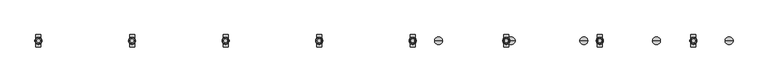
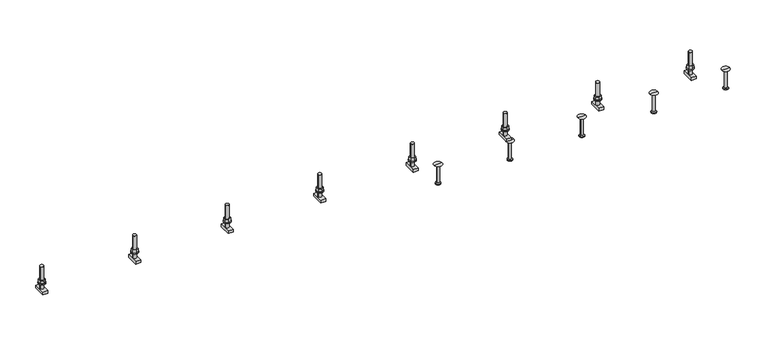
"""IFC4 building model written with IfcOpenShell, lengths in millimetres: fastener geometry, JTA-W JORDAHL® AnchorChannels : JTA-W L=3000 mm."""

from ifc_helpers import new_model, si_unit, point, frame, frame_2d, origin, place, context, project, spatial, polyline, circle_curve, trimmed, segment, composite_curve, outline, extrude, source, transform, mapped, element, save
from ifc_brep_helpers import plane_surface, cylinder_surface, revolved_surface, advanced_brep


def fastener_f8aa0450(model_context):
    return source(origin(), model_context, "Body", "SolidModel", [
        extrude(outline(polyline([(2608.3333333, -10.3923048), (2599.3333333, -5.1961524), (2599.3333333, 5.1961524), (2608.3333333, 10.3923048), (2617.3333333, 5.1961524), (2617.3333333, -5.1961524), (2608.3333333, -10.3923048)]), holes=[composite_curve([segment(trimmed(circle_curve(frame_2d((2608.3333333, 0.0)), 6.0), [point((2602.3333333, 0.0))], [point((2614.3333333, 0.0))], True, "CARTESIAN"), True, "CONTINUOUS"), segment(trimmed(circle_curve(frame_2d((2608.3333333, 0.0)), 6.0), [point((2614.3333333, 0.0))], [point((2602.3333333, 0.0))], True, "CARTESIAN"), True, "CONTINUOUS")], self_intersect=False)]), frame((0.0, 0.0, 17.5), z_axis=(0.0, 0.0, 1.0), x_axis=(1.0, 0.0, 0.0)), (0.0, 0.0, 1.0), 10.8),
        extrude(outline(composite_curve([segment(trimmed(circle_curve(frame_2d((2608.3333333, 0.0)), 12.0), [point((2596.3333333, 0.0))], [point((2620.3333333, 0.0))], False, "CARTESIAN"), True, "CONTINUOUS"), segment(trimmed(circle_curve(frame_2d((2608.3333333, 0.0)), 12.0), [point((2620.3333333, 0.0))], [point((2596.3333333, 0.0))], False, "CARTESIAN"), True, "CONTINUOUS")], self_intersect=False), holes=[composite_curve([segment(trimmed(circle_curve(frame_2d((2608.3333333, 0.0)), 6.5), [point((2601.8333333, 0.0))], [point((2614.8333333, 0.0))], True, "CARTESIAN"), True, "CONTINUOUS"), segment(trimmed(circle_curve(frame_2d((2608.3333333, 0.0)), 6.5), [point((2614.8333333, 0.0))], [point((2601.8333333, 0.0))], True, "CARTESIAN"), True, "CONTINUOUS")], self_intersect=False)]), frame((0.0, 0.0, 15.0), z_axis=(0.0, 0.0, 1.0), x_axis=(1.0, 0.0, 0.0)), (0.0, 0.0, 1.0), 2.5),
        extrude(outline(polyline([(2291.6666667, -10.3923048), (2282.6666667, -5.1961524), (2282.6666667, 5.1961524), (2291.6666667, 10.3923048), (2300.6666667, 5.1961524), (2300.6666667, -5.1961524), (2291.6666667, -10.3923048)]), holes=[composite_curve([segment(trimmed(circle_curve(frame_2d((2291.6666667, 0.0)), 6.0), [point((2285.6666667, 0.0))], [point((2297.6666667, 0.0))], True, "CARTESIAN"), True, "CONTINUOUS"), segment(trimmed(circle_curve(frame_2d((2291.6666667, 0.0)), 6.0), [point((2297.6666667, 0.0))], [point((2285.6666667, 0.0))], True, "CARTESIAN"), True, "CONTINUOUS")], self_intersect=False)]), frame((0.0, 0.0, 17.5), z_axis=(0.0, 0.0, 1.0), x_axis=(1.0, 0.0, 0.0)), (0.0, 0.0, 1.0), 10.8),
        extrude(outline(composite_curve([segment(trimmed(circle_curve(frame_2d((2291.6666667, 0.0)), 12.0), [point((2279.6666667, 0.0))], [point((2303.6666667, 0.0))], False, "CARTESIAN"), True, "CONTINUOUS"), segment(trimmed(circle_curve(frame_2d((2291.6666667, 0.0)), 12.0), [point((2303.6666667, 0.0))], [point((2279.6666667, 0.0))], False, "CARTESIAN"), True, "CONTINUOUS")], self_intersect=False), holes=[composite_curve([segment(trimmed(circle_curve(frame_2d((2291.6666667, 0.0)), 6.5), [point((2285.1666667, 0.0))], [point((2298.1666667, 0.0))], True, "CARTESIAN"), True, "CONTINUOUS"), segment(trimmed(circle_curve(frame_2d((2291.6666667, 0.0)), 6.5), [point((2298.1666667, 0.0))], [point((2285.1666667, 0.0))], True, "CARTESIAN"), True, "CONTINUOUS")], self_intersect=False)]), frame((0.0, 0.0, 15.0), z_axis=(0.0, 0.0, 1.0), x_axis=(1.0, 0.0, 0.0)), (0.0, 0.0, 1.0), 2.5),
        extrude(outline(polyline([(1975.0, -10.3923048), (1966.0, -5.1961524), (1966.0, 5.1961524), (1975.0, 10.3923048), (1984.0, 5.1961524), (1984.0, -5.1961524), (1975.0, -10.3923048)]), holes=[composite_curve([segment(trimmed(circle_curve(frame_2d((1975.0, 0.0)), 6.0), [point((1969.0, 0.0))], [point((1981.0, 0.0))], True, "CARTESIAN"), True, "CONTINUOUS"), segment(trimmed(circle_curve(frame_2d((1975.0, 0.0)), 6.0), [point((1981.0, 0.0))], [point((1969.0, 0.0))], True, "CARTESIAN"), True, "CONTINUOUS")], self_intersect=False)]), frame((0.0, 0.0, 17.5), z_axis=(0.0, 0.0, 1.0), x_axis=(1.0, 0.0, 0.0)), (0.0, 0.0, 1.0), 10.8),
        extrude(outline(composite_curve([segment(trimmed(circle_curve(frame_2d((1975.0, 0.0)), 12.0), [point((1963.0, 0.0))], [point((1987.0, 0.0))], False, "CARTESIAN"), True, "CONTINUOUS"), segment(trimmed(circle_curve(frame_2d((1975.0, 0.0)), 12.0), [point((1987.0, 0.0))], [point((1963.0, 0.0))], False, "CARTESIAN"), True, "CONTINUOUS")], self_intersect=False), holes=[composite_curve([segment(trimmed(circle_curve(frame_2d((1975.0, 0.0)), 6.5), [point((1968.5, 0.0))], [point((1981.5, 0.0))], True, "CARTESIAN"), True, "CONTINUOUS"), segment(trimmed(circle_curve(frame_2d((1975.0, 0.0)), 6.5), [point((1981.5, 0.0))], [point((1968.5, 0.0))], True, "CARTESIAN"), True, "CONTINUOUS")], self_intersect=False)]), frame((0.0, 0.0, 15.0), z_axis=(0.0, 0.0, 1.0), x_axis=(1.0, 0.0, 0.0)), (0.0, 0.0, 1.0), 2.5),
        extrude(outline(polyline([(1658.3333333, -10.3923048), (1649.3333333, -5.1961524), (1649.3333333, 5.1961524), (1658.3333333, 10.3923048), (1667.3333333, 5.1961524), (1667.3333333, -5.1961524), (1658.3333333, -10.3923048)]), holes=[composite_curve([segment(trimmed(circle_curve(frame_2d((1658.3333333, 0.0)), 6.0), [point((1652.3333333, 0.0))], [point((1664.3333333, 0.0))], True, "CARTESIAN"), True, "CONTINUOUS"), segment(trimmed(circle_curve(frame_2d((1658.3333333, 0.0)), 6.0), [point((1664.3333333, 0.0))], [point((1652.3333333, 0.0))], True, "CARTESIAN"), True, "CONTINUOUS")], self_intersect=False)]), frame((0.0, 0.0, 17.5), z_axis=(0.0, 0.0, 1.0), x_axis=(1.0, 0.0, 0.0)), (0.0, 0.0, 1.0), 10.8),
        extrude(outline(composite_curve([segment(trimmed(circle_curve(frame_2d((1658.3333333, 0.0)), 12.0), [point((1646.3333333, 0.0))], [point((1670.3333333, 0.0))], False, "CARTESIAN"), True, "CONTINUOUS"), segment(trimmed(circle_curve(frame_2d((1658.3333333, 0.0)), 12.0), [point((1670.3333333, 0.0))], [point((1646.3333333, 0.0))], False, "CARTESIAN"), True, "CONTINUOUS")], self_intersect=False), holes=[composite_curve([segment(trimmed(circle_curve(frame_2d((1658.3333333, 0.0)), 6.5), [point((1651.8333333, 0.0))], [point((1664.8333333, 0.0))], True, "CARTESIAN"), True, "CONTINUOUS"), segment(trimmed(circle_curve(frame_2d((1658.3333333, 0.0)), 6.5), [point((1664.8333333, 0.0))], [point((1651.8333333, 0.0))], True, "CARTESIAN"), True, "CONTINUOUS")], self_intersect=False)]), frame((0.0, 0.0, 15.0), z_axis=(0.0, 0.0, 1.0), x_axis=(1.0, 0.0, 0.0)), (0.0, 0.0, 1.0), 2.5),
        extrude(outline(polyline([(1341.6666667, -10.3923048), (1332.6666667, -5.1961524), (1332.6666667, 5.1961524), (1341.6666667, 10.3923048), (1350.6666667, 5.1961524), (1350.6666667, -5.1961524), (1341.6666667, -10.3923048)]), holes=[composite_curve([segment(trimmed(circle_curve(frame_2d((1341.6666667, 0.0)), 6.0), [point((1335.6666667, 0.0))], [point((1347.6666667, 0.0))], True, "CARTESIAN"), True, "CONTINUOUS"), segment(trimmed(circle_curve(frame_2d((1341.6666667, 0.0)), 6.0), [point((1347.6666667, 0.0))], [point((1335.6666667, 0.0))], True, "CARTESIAN"), True, "CONTINUOUS")], self_intersect=False)]), frame((0.0, 0.0, 17.5), z_axis=(0.0, 0.0, 1.0), x_axis=(1.0, 0.0, 0.0)), (0.0, 0.0, 1.0), 10.8),
        extrude(outline(composite_curve([segment(trimmed(circle_curve(frame_2d((1341.6666667, 0.0)), 12.0), [point((1329.6666667, 0.0))], [point((1353.6666667, 0.0))], False, "CARTESIAN"), True, "CONTINUOUS"), segment(trimmed(circle_curve(frame_2d((1341.6666667, 0.0)), 12.0), [point((1353.6666667, 0.0))], [point((1329.6666667, 0.0))], False, "CARTESIAN"), True, "CONTINUOUS")], self_intersect=False), holes=[composite_curve([segment(trimmed(circle_curve(frame_2d((1341.6666667, 0.0)), 6.5), [point((1335.1666667, 0.0))], [point((1348.1666667, 0.0))], True, "CARTESIAN"), True, "CONTINUOUS"), segment(trimmed(circle_curve(frame_2d((1341.6666667, 0.0)), 6.5), [point((1348.1666667, 0.0))], [point((1335.1666667, 0.0))], True, "CARTESIAN"), True, "CONTINUOUS")], self_intersect=False)]), frame((0.0, 0.0, 15.0), z_axis=(0.0, 0.0, 1.0), x_axis=(1.0, 0.0, 0.0)), (0.0, 0.0, 1.0), 2.5),
        extrude(outline(polyline([(1025.0, -10.3923048), (1016.0, -5.1961524), (1016.0, 5.1961524), (1025.0, 10.3923048), (1034.0, 5.1961524), (1034.0, -5.1961524), (1025.0, -10.3923048)]), holes=[composite_curve([segment(trimmed(circle_curve(frame_2d((1025.0, 0.0)), 6.0), [point((1019.0, 0.0))], [point((1031.0, 0.0))], True, "CARTESIAN"), True, "CONTINUOUS"), segment(trimmed(circle_curve(frame_2d((1025.0, 0.0)), 6.0), [point((1031.0, 0.0))], [point((1019.0, 0.0))], True, "CARTESIAN"), True, "CONTINUOUS")], self_intersect=False)]), frame((0.0, 0.0, 17.5), z_axis=(0.0, 0.0, 1.0), x_axis=(1.0, 0.0, 0.0)), (0.0, 0.0, 1.0), 10.8),
        extrude(outline(composite_curve([segment(trimmed(circle_curve(frame_2d((1025.0, 0.0)), 12.0), [point((1013.0, 0.0))], [point((1037.0, 0.0))], False, "CARTESIAN"), True, "CONTINUOUS"), segment(trimmed(circle_curve(frame_2d((1025.0, 0.0)), 12.0), [point((1037.0, 0.0))], [point((1013.0, 0.0))], False, "CARTESIAN"), True, "CONTINUOUS")], self_intersect=False), holes=[composite_curve([segment(trimmed(circle_curve(frame_2d((1025.0, 0.0)), 6.5), [point((1018.5, 0.0))], [point((1031.5, 0.0))], True, "CARTESIAN"), True, "CONTINUOUS"), segment(trimmed(circle_curve(frame_2d((1025.0, 0.0)), 6.5), [point((1031.5, 0.0))], [point((1018.5, 0.0))], True, "CARTESIAN"), True, "CONTINUOUS")], self_intersect=False)]), frame((0.0, 0.0, 15.0), z_axis=(0.0, 0.0, 1.0), x_axis=(1.0, 0.0, 0.0)), (0.0, 0.0, 1.0), 2.5),
        extrude(outline(polyline([(708.3333333, -10.3923048), (699.3333333, -5.1961524), (699.3333333, 5.1961524), (708.3333333, 10.3923048), (717.3333333, 5.1961524), (717.3333333, -5.1961524), (708.3333333, -10.3923048)]), holes=[composite_curve([segment(trimmed(circle_curve(frame_2d((708.3333333, 0.0)), 6.0), [point((702.3333333, 0.0))], [point((714.3333333, 0.0))], True, "CARTESIAN"), True, "CONTINUOUS"), segment(trimmed(circle_curve(frame_2d((708.3333333, 0.0)), 6.0), [point((714.3333333, 0.0))], [point((702.3333333, 0.0))], True, "CARTESIAN"), True, "CONTINUOUS")], self_intersect=False)]), frame((0.0, 0.0, 17.5), z_axis=(0.0, 0.0, 1.0), x_axis=(1.0, 0.0, 0.0)), (0.0, 0.0, 1.0), 10.8),
        extrude(outline(composite_curve([segment(trimmed(circle_curve(frame_2d((708.3333333, 0.0)), 12.0), [point((696.3333333, 0.0))], [point((720.3333333, 0.0))], False, "CARTESIAN"), True, "CONTINUOUS"), segment(trimmed(circle_curve(frame_2d((708.3333333, 0.0)), 12.0), [point((720.3333333, 0.0))], [point((696.3333333, 0.0))], False, "CARTESIAN"), True, "CONTINUOUS")], self_intersect=False), holes=[composite_curve([segment(trimmed(circle_curve(frame_2d((708.3333333, 0.0)), 6.5), [point((701.8333333, 0.0))], [point((714.8333333, 0.0))], True, "CARTESIAN"), True, "CONTINUOUS"), segment(trimmed(circle_curve(frame_2d((708.3333333, 0.0)), 6.5), [point((714.8333333, 0.0))], [point((701.8333333, 0.0))], True, "CARTESIAN"), True, "CONTINUOUS")], self_intersect=False)]), frame((0.0, 0.0, 15.0), z_axis=(0.0, 0.0, 1.0), x_axis=(1.0, 0.0, 0.0)), (0.0, 0.0, 1.0), 2.5),
        extrude(outline(polyline([(391.6666667, -10.3923048), (382.6666667, -5.1961524), (382.6666667, 5.1961524), (391.6666667, 10.3923048), (400.6666667, 5.1961524), (400.6666667, -5.1961524), (391.6666667, -10.3923048)]), holes=[composite_curve([segment(trimmed(circle_curve(frame_2d((391.6666667, 0.0)), 6.0), [point((385.6666667, 0.0))], [point((397.6666667, 0.0))], True, "CARTESIAN"), True, "CONTINUOUS"), segment(trimmed(circle_curve(frame_2d((391.6666667, 0.0)), 6.0), [point((397.6666667, 0.0))], [point((385.6666667, 0.0))], True, "CARTESIAN"), True, "CONTINUOUS")], self_intersect=False)]), frame((0.0, 0.0, 17.5), z_axis=(0.0, 0.0, 1.0), x_axis=(1.0, 0.0, 0.0)), (0.0, 0.0, 1.0), 10.8),
        extrude(outline(composite_curve([segment(trimmed(circle_curve(frame_2d((391.6666667, 0.0)), 12.0), [point((379.6666667, 0.0))], [point((403.6666667, 0.0))], False, "CARTESIAN"), True, "CONTINUOUS"), segment(trimmed(circle_curve(frame_2d((391.6666667, 0.0)), 12.0), [point((403.6666667, 0.0))], [point((379.6666667, 0.0))], False, "CARTESIAN"), True, "CONTINUOUS")], self_intersect=False), holes=[composite_curve([segment(trimmed(circle_curve(frame_2d((391.6666667, 0.0)), 6.5), [point((385.1666667, 0.0))], [point((398.1666667, 0.0))], True, "CARTESIAN"), True, "CONTINUOUS"), segment(trimmed(circle_curve(frame_2d((391.6666667, 0.0)), 6.5), [point((398.1666667, 0.0))], [point((385.1666667, 0.0))], True, "CARTESIAN"), True, "CONTINUOUS")], self_intersect=False)]), frame((0.0, 0.0, 15.0), z_axis=(0.0, 0.0, 1.0), x_axis=(1.0, 0.0, 0.0)), (0.0, 0.0, 1.0), 2.5),
        advanced_brep(
        [(2616.8333333, -20.7, -4.0), (2616.8333333, -20.7, -14.0), (2616.8333333, 20.7, -14.0), (2616.8333333, 20.7, -4.0), (2599.8333333, -20.7, -4.0), (2599.8333333, 20.7, -4.0), (2599.8333333, 20.7, -14.0), (2599.8333333, -20.7, -14.0), (2614.3333333, 0.0, -4.0), (2602.3333333, 0.0, -4.0), (2602.3333333, 0.0, 76.0), (2614.3333333, 0.0, 76.0)],
        [
            (0, 1),
            (1, 2),
            (2, 3),
            (3, 0),
            (4, 5),
            (5, 6),
            (6, 7),
            (7, 4),
            (3, 5),
            (4, 0),
            (8, 9, circle_curve(frame((2608.3333333, 0.0, -4.0), z_axis=(0.0, 0.0, -1.0), x_axis=(1.0, 0.0, 0.0)), 6.0)),
            (9, 8, circle_curve(frame((2608.3333333, 0.0, -4.0), z_axis=(0.0, 0.0, -1.0), x_axis=(1.0, 0.0, 0.0)), 6.0)),
            (2, 6),
            (1, 7),
            (10, 11, circle_curve(frame((2608.3333333, 0.0, 76.0), z_axis=(0.0, 0.0, 1.0), x_axis=(1.0, 0.0, 0.0)), 6.0)),
            (11, 10, circle_curve(frame((2608.3333333, 0.0, 76.0), z_axis=(0.0, 0.0, 1.0), x_axis=(1.0, 0.0, 0.0)), 6.0)),
            (11, 8),
            (9, 10),
        ],
        [
            plane_surface(frame((2616.8333333, 20.7, -4.0), z_axis=(1.0, 0.0, 0.0), x_axis=(0.0, 1.0, 0.0))),
            plane_surface(frame((2599.8333333, 20.7, -4.0), z_axis=(-1.0, 0.0, 0.0), x_axis=(0.0, -1.0, 0.0))),
            plane_surface(frame((2616.8333333, -20.7, -4.0), z_axis=(0.0, 0.0, 1.0), x_axis=(-1.0, 0.0, 0.0))),
            plane_surface(frame((2616.8333333, 20.7, -4.0), z_axis=(0.0, 1.0, 0.0), x_axis=(-1.0, 0.0, 0.0))),
            plane_surface(frame((2616.8333333, 20.7, -14.0), z_axis=(0.0, 0.0, -1.0), x_axis=(-1.0, 0.0, 0.0))),
            plane_surface(frame((2616.8333333, -20.7, -14.0), z_axis=(0.0, -1.0, 0.0), x_axis=(-1.0, 0.0, 0.0))),
            plane_surface(frame((2614.3333333, 0.0, 76.0), z_axis=(0.0, 0.0, 1.0), x_axis=(0.0, -1.0, 0.0))),
            cylinder_surface(frame((2608.3333333, 0.0, -4.0), z_axis=(0.0, 0.0, 1.0), x_axis=(1.0, 0.0, 0.0)), 6.0),
        ],
        [
            (0, [[1, 2, 3, 4]]),
            (1, [[5, 6, 7, 8]]),
            (2, [[9, -5, 10, -4], [11, 12]]),
            (3, [[13, -6, -9, -3]]),
            (4, [[14, -7, -13, -2]]),
            (5, [[-10, -8, -14, -1]]),
            (6, [[15, 16]]),
            (7, [[17, -12, 18, -16]]),
            (7, [[-18, -11, -17, -15]]),
        ],
    ),
        advanced_brep(
        [(2300.1666667, -20.7, -4.0), (2300.1666667, -20.7, -14.0), (2300.1666667, 20.7, -14.0), (2300.1666667, 20.7, -4.0), (2283.1666667, -20.7, -4.0), (2283.1666667, 20.7, -4.0), (2283.1666667, 20.7, -14.0), (2283.1666667, -20.7, -14.0), (2297.6666667, 0.0, -4.0), (2285.6666667, 0.0, -4.0), (2285.6666667, 0.0, 76.0), (2297.6666667, 0.0, 76.0)],
        [
            (0, 1),
            (1, 2),
            (2, 3),
            (3, 0),
            (4, 5),
            (5, 6),
            (6, 7),
            (7, 4),
            (3, 5),
            (4, 0),
            (8, 9, circle_curve(frame((2291.6666667, 0.0, -4.0), z_axis=(0.0, 0.0, -1.0), x_axis=(1.0, 0.0, 0.0)), 6.0)),
            (9, 8, circle_curve(frame((2291.6666667, 0.0, -4.0), z_axis=(0.0, 0.0, -1.0), x_axis=(1.0, 0.0, 0.0)), 6.0)),
            (2, 6),
            (1, 7),
            (10, 11, circle_curve(frame((2291.6666667, 0.0, 76.0), z_axis=(0.0, 0.0, 1.0), x_axis=(1.0, 0.0, 0.0)), 6.0)),
            (11, 10, circle_curve(frame((2291.6666667, 0.0, 76.0), z_axis=(0.0, 0.0, 1.0), x_axis=(1.0, 0.0, 0.0)), 6.0)),
            (11, 8),
            (9, 10),
        ],
        [
            plane_surface(frame((2300.1666667, 20.7, -4.0), z_axis=(1.0, 0.0, 0.0), x_axis=(0.0, 1.0, 0.0))),
            plane_surface(frame((2283.1666667, 20.7, -4.0), z_axis=(-1.0, 0.0, 0.0), x_axis=(0.0, -1.0, 0.0))),
            plane_surface(frame((2300.1666667, -20.7, -4.0), z_axis=(0.0, 0.0, 1.0), x_axis=(-1.0, 0.0, 0.0))),
            plane_surface(frame((2300.1666667, 20.7, -4.0), z_axis=(0.0, 1.0, 0.0), x_axis=(-1.0, 0.0, 0.0))),
            plane_surface(frame((2300.1666667, 20.7, -14.0), z_axis=(0.0, 0.0, -1.0), x_axis=(-1.0, 0.0, 0.0))),
            plane_surface(frame((2300.1666667, -20.7, -14.0), z_axis=(0.0, -1.0, 0.0), x_axis=(-1.0, 0.0, 0.0))),
            plane_surface(frame((2297.6666667, 0.0, 76.0), z_axis=(0.0, 0.0, 1.0), x_axis=(0.0, -1.0, 0.0))),
            cylinder_surface(frame((2291.6666667, 0.0, -4.0), z_axis=(0.0, 0.0, 1.0), x_axis=(1.0, 0.0, 0.0)), 6.0),
        ],
        [
            (0, [[1, 2, 3, 4]]),
            (1, [[5, 6, 7, 8]]),
            (2, [[9, -5, 10, -4], [11, 12]]),
            (3, [[13, -6, -9, -3]]),
            (4, [[14, -7, -13, -2]]),
            (5, [[-10, -8, -14, -1]]),
            (6, [[15, 16]]),
            (7, [[17, -12, 18, -16]]),
            (7, [[-18, -11, -17, -15]]),
        ],
    ),
        advanced_brep(
        [(1983.5, -20.7, -4.0), (1983.5, -20.7, -14.0), (1983.5, 20.7, -14.0), (1983.5, 20.7, -4.0), (1966.5, -20.7, -4.0), (1966.5, 20.7, -4.0), (1966.5, 20.7, -14.0), (1966.5, -20.7, -14.0), (1981.0, 0.0, -4.0), (1969.0, 0.0, -4.0), (1969.0, 0.0, 76.0), (1981.0, 0.0, 76.0)],
        [
            (0, 1),
            (1, 2),
            (2, 3),
            (3, 0),
            (4, 5),
            (5, 6),
            (6, 7),
            (7, 4),
            (3, 5),
            (4, 0),
            (8, 9, circle_curve(frame((1975.0, 0.0, -4.0), z_axis=(0.0, 0.0, -1.0), x_axis=(1.0, 0.0, 0.0)), 6.0)),
            (9, 8, circle_curve(frame((1975.0, 0.0, -4.0), z_axis=(0.0, 0.0, -1.0), x_axis=(1.0, 0.0, 0.0)), 6.0)),
            (2, 6),
            (1, 7),
            (10, 11, circle_curve(frame((1975.0, 0.0, 76.0), z_axis=(0.0, 0.0, 1.0), x_axis=(1.0, 0.0, 0.0)), 6.0)),
            (11, 10, circle_curve(frame((1975.0, 0.0, 76.0), z_axis=(0.0, 0.0, 1.0), x_axis=(1.0, 0.0, 0.0)), 6.0)),
            (11, 8),
            (9, 10),
        ],
        [
            plane_surface(frame((1983.5, 20.7, -4.0), z_axis=(1.0, 0.0, 0.0), x_axis=(0.0, 1.0, 0.0))),
            plane_surface(frame((1966.5, 20.7, -4.0), z_axis=(-1.0, 0.0, 0.0), x_axis=(0.0, -1.0, 0.0))),
            plane_surface(frame((1983.5, -20.7, -4.0), z_axis=(0.0, 0.0, 1.0), x_axis=(-1.0, 0.0, 0.0))),
            plane_surface(frame((1983.5, 20.7, -4.0), z_axis=(0.0, 1.0, 0.0), x_axis=(-1.0, 0.0, 0.0))),
            plane_surface(frame((1983.5, 20.7, -14.0), z_axis=(0.0, 0.0, -1.0), x_axis=(-1.0, 0.0, 0.0))),
            plane_surface(frame((1983.5, -20.7, -14.0), z_axis=(0.0, -1.0, 0.0), x_axis=(-1.0, 0.0, 0.0))),
            plane_surface(frame((1981.0, 0.0, 76.0), z_axis=(0.0, 0.0, 1.0), x_axis=(0.0, -1.0, 0.0))),
            cylinder_surface(frame((1975.0, 0.0, -4.0), z_axis=(0.0, 0.0, 1.0), x_axis=(1.0, 0.0, 0.0)), 6.0),
        ],
        [
            (0, [[1, 2, 3, 4]]),
            (1, [[5, 6, 7, 8]]),
            (2, [[9, -5, 10, -4], [11, 12]]),
            (3, [[13, -6, -9, -3]]),
            (4, [[14, -7, -13, -2]]),
            (5, [[-10, -8, -14, -1]]),
            (6, [[15, 16]]),
            (7, [[17, -12, 18, -16]]),
            (7, [[-18, -11, -17, -15]]),
        ],
    ),
        advanced_brep(
        [(1666.8333333, -20.7, -4.0), (1666.8333333, -20.7, -14.0), (1666.8333333, 20.7, -14.0), (1666.8333333, 20.7, -4.0), (1649.8333333, -20.7, -4.0), (1649.8333333, 20.7, -4.0), (1649.8333333, 20.7, -14.0), (1649.8333333, -20.7, -14.0), (1664.3333333, 0.0, -4.0), (1652.3333333, 0.0, -4.0), (1652.3333333, 0.0, 76.0), (1664.3333333, 0.0, 76.0)],
        [
            (0, 1),
            (1, 2),
            (2, 3),
            (3, 0),
            (4, 5),
            (5, 6),
            (6, 7),
            (7, 4),
            (3, 5),
            (4, 0),
            (8, 9, circle_curve(frame((1658.3333333, 0.0, -4.0), z_axis=(0.0, 0.0, -1.0), x_axis=(1.0, 0.0, 0.0)), 6.0)),
            (9, 8, circle_curve(frame((1658.3333333, 0.0, -4.0), z_axis=(0.0, 0.0, -1.0), x_axis=(1.0, 0.0, 0.0)), 6.0)),
            (2, 6),
            (1, 7),
            (10, 11, circle_curve(frame((1658.3333333, 0.0, 76.0), z_axis=(0.0, 0.0, 1.0), x_axis=(1.0, 0.0, 0.0)), 6.0)),
            (11, 10, circle_curve(frame((1658.3333333, 0.0, 76.0), z_axis=(0.0, 0.0, 1.0), x_axis=(1.0, 0.0, 0.0)), 6.0)),
            (11, 8),
            (9, 10),
        ],
        [
            plane_surface(frame((1666.8333333, 20.7, -4.0), z_axis=(1.0, 0.0, 0.0), x_axis=(0.0, 1.0, 0.0))),
            plane_surface(frame((1649.8333333, 20.7, -4.0), z_axis=(-1.0, 0.0, 0.0), x_axis=(0.0, -1.0, 0.0))),
            plane_surface(frame((1666.8333333, -20.7, -4.0), z_axis=(0.0, 0.0, 1.0), x_axis=(-1.0, 0.0, 0.0))),
            plane_surface(frame((1666.8333333, 20.7, -4.0), z_axis=(0.0, 1.0, 0.0), x_axis=(-1.0, 0.0, 0.0))),
            plane_surface(frame((1666.8333333, 20.7, -14.0), z_axis=(0.0, 0.0, -1.0), x_axis=(-1.0, 0.0, 0.0))),
            plane_surface(frame((1666.8333333, -20.7, -14.0), z_axis=(0.0, -1.0, 0.0), x_axis=(-1.0, 0.0, 0.0))),
            plane_surface(frame((1664.3333333, 0.0, 76.0), z_axis=(0.0, 0.0, 1.0), x_axis=(0.0, -1.0, 0.0))),
            cylinder_surface(frame((1658.3333333, 0.0, -4.0), z_axis=(0.0, 0.0, 1.0), x_axis=(1.0, 0.0, 0.0)), 6.0),
        ],
        [
            (0, [[1, 2, 3, 4]]),
            (1, [[5, 6, 7, 8]]),
            (2, [[9, -5, 10, -4], [11, 12]]),
            (3, [[13, -6, -9, -3]]),
            (4, [[14, -7, -13, -2]]),
            (5, [[-10, -8, -14, -1]]),
            (6, [[15, 16]]),
            (7, [[17, -12, 18, -16]]),
            (7, [[-18, -11, -17, -15]]),
        ],
    ),
        advanced_brep(
        [(1350.1666667, -20.7, -4.0), (1350.1666667, -20.7, -14.0), (1350.1666667, 20.7, -14.0), (1350.1666667, 20.7, -4.0), (1333.1666667, -20.7, -4.0), (1333.1666667, 20.7, -4.0), (1333.1666667, 20.7, -14.0), (1333.1666667, -20.7, -14.0), (1347.6666667, 0.0, -4.0), (1335.6666667, 0.0, -4.0), (1335.6666667, 0.0, 76.0), (1347.6666667, 0.0, 76.0)],
        [
            (0, 1),
            (1, 2),
            (2, 3),
            (3, 0),
            (4, 5),
            (5, 6),
            (6, 7),
            (7, 4),
            (3, 5),
            (4, 0),
            (8, 9, circle_curve(frame((1341.6666667, 0.0, -4.0), z_axis=(0.0, 0.0, -1.0), x_axis=(1.0, 0.0, 0.0)), 6.0)),
            (9, 8, circle_curve(frame((1341.6666667, 0.0, -4.0), z_axis=(0.0, 0.0, -1.0), x_axis=(1.0, 0.0, 0.0)), 6.0)),
            (2, 6),
            (1, 7),
            (10, 11, circle_curve(frame((1341.6666667, 0.0, 76.0), z_axis=(0.0, 0.0, 1.0), x_axis=(1.0, 0.0, 0.0)), 6.0)),
            (11, 10, circle_curve(frame((1341.6666667, 0.0, 76.0), z_axis=(0.0, 0.0, 1.0), x_axis=(1.0, 0.0, 0.0)), 6.0)),
            (11, 8),
            (9, 10),
        ],
        [
            plane_surface(frame((1350.1666667, 20.7, -4.0), z_axis=(1.0, 0.0, 0.0), x_axis=(0.0, 1.0, 0.0))),
            plane_surface(frame((1333.1666667, 20.7, -4.0), z_axis=(-1.0, 0.0, 0.0), x_axis=(0.0, -1.0, 0.0))),
            plane_surface(frame((1350.1666667, -20.7, -4.0), z_axis=(0.0, 0.0, 1.0), x_axis=(-1.0, 0.0, 0.0))),
            plane_surface(frame((1350.1666667, 20.7, -4.0), z_axis=(0.0, 1.0, 0.0), x_axis=(-1.0, 0.0, 0.0))),
            plane_surface(frame((1350.1666667, 20.7, -14.0), z_axis=(0.0, 0.0, -1.0), x_axis=(-1.0, 0.0, 0.0))),
            plane_surface(frame((1350.1666667, -20.7, -14.0), z_axis=(0.0, -1.0, 0.0), x_axis=(-1.0, 0.0, 0.0))),
            plane_surface(frame((1347.6666667, 0.0, 76.0), z_axis=(0.0, 0.0, 1.0), x_axis=(0.0, -1.0, 0.0))),
            cylinder_surface(frame((1341.6666667, 0.0, -4.0), z_axis=(0.0, 0.0, 1.0), x_axis=(1.0, 0.0, 0.0)), 6.0),
        ],
        [
            (0, [[1, 2, 3, 4]]),
            (1, [[5, 6, 7, 8]]),
            (2, [[9, -5, 10, -4], [11, 12]]),
            (3, [[13, -6, -9, -3]]),
            (4, [[14, -7, -13, -2]]),
            (5, [[-10, -8, -14, -1]]),
            (6, [[15, 16]]),
            (7, [[17, -12, 18, -16]]),
            (7, [[-18, -11, -17, -15]]),
        ],
    ),
        advanced_brep(
        [(1033.5, -20.7, -4.0), (1033.5, -20.7, -14.0), (1033.5, 20.7, -14.0), (1033.5, 20.7, -4.0), (1016.5, -20.7, -4.0), (1016.5, 20.7, -4.0), (1016.5, 20.7, -14.0), (1016.5, -20.7, -14.0), (1031.0, 0.0, -4.0), (1019.0, 0.0, -4.0), (1019.0, 0.0, 76.0), (1031.0, 0.0, 76.0)],
        [
            (0, 1),
            (1, 2),
            (2, 3),
            (3, 0),
            (4, 5),
            (5, 6),
            (6, 7),
            (7, 4),
            (3, 5),
            (4, 0),
            (8, 9, circle_curve(frame((1025.0, 0.0, -4.0), z_axis=(0.0, 0.0, -1.0), x_axis=(1.0, 0.0, 0.0)), 6.0)),
            (9, 8, circle_curve(frame((1025.0, 0.0, -4.0), z_axis=(0.0, 0.0, -1.0), x_axis=(1.0, 0.0, 0.0)), 6.0)),
            (2, 6),
            (1, 7),
            (10, 11, circle_curve(frame((1025.0, 0.0, 76.0), z_axis=(0.0, 0.0, 1.0), x_axis=(1.0, 0.0, 0.0)), 6.0)),
            (11, 10, circle_curve(frame((1025.0, 0.0, 76.0), z_axis=(0.0, 0.0, 1.0), x_axis=(1.0, 0.0, 0.0)), 6.0)),
            (11, 8),
            (9, 10),
        ],
        [
            plane_surface(frame((1033.5, 20.7, -4.0), z_axis=(1.0, 0.0, 0.0), x_axis=(0.0, 1.0, 0.0))),
            plane_surface(frame((1016.5, 20.7, -4.0), z_axis=(-1.0, 0.0, 0.0), x_axis=(0.0, -1.0, 0.0))),
            plane_surface(frame((1033.5, -20.7, -4.0), z_axis=(0.0, 0.0, 1.0), x_axis=(-1.0, 0.0, 0.0))),
            plane_surface(frame((1033.5, 20.7, -4.0), z_axis=(0.0, 1.0, 0.0), x_axis=(-1.0, 0.0, 0.0))),
            plane_surface(frame((1033.5, 20.7, -14.0), z_axis=(0.0, 0.0, -1.0), x_axis=(-1.0, 0.0, 0.0))),
            plane_surface(frame((1033.5, -20.7, -14.0), z_axis=(0.0, -1.0, 0.0), x_axis=(-1.0, 0.0, 0.0))),
            plane_surface(frame((1031.0, 0.0, 76.0), z_axis=(0.0, 0.0, 1.0), x_axis=(0.0, -1.0, 0.0))),
            cylinder_surface(frame((1025.0, 0.0, -4.0), z_axis=(0.0, 0.0, 1.0), x_axis=(1.0, 0.0, 0.0)), 6.0),
        ],
        [
            (0, [[1, 2, 3, 4]]),
            (1, [[5, 6, 7, 8]]),
            (2, [[9, -5, 10, -4], [11, 12]]),
            (3, [[13, -6, -9, -3]]),
            (4, [[14, -7, -13, -2]]),
            (5, [[-10, -8, -14, -1]]),
            (6, [[15, 16]]),
            (7, [[17, -12, 18, -16]]),
            (7, [[-18, -11, -17, -15]]),
        ],
    ),
        advanced_brep(
        [(716.8333333, -20.7, -4.0), (716.8333333, -20.7, -14.0), (716.8333333, 20.7, -14.0), (716.8333333, 20.7, -4.0), (699.8333333, -20.7, -4.0), (699.8333333, 20.7, -4.0), (699.8333333, 20.7, -14.0), (699.8333333, -20.7, -14.0), (714.3333333, 0.0, -4.0), (702.3333333, 0.0, -4.0), (702.3333333, 0.0, 76.0), (714.3333333, 0.0, 76.0)],
        [
            (0, 1),
            (1, 2),
            (2, 3),
            (3, 0),
            (4, 5),
            (5, 6),
            (6, 7),
            (7, 4),
            (3, 5),
            (4, 0),
            (8, 9, circle_curve(frame((708.3333333, 0.0, -4.0), z_axis=(0.0, 0.0, -1.0), x_axis=(1.0, 0.0, 0.0)), 6.0)),
            (9, 8, circle_curve(frame((708.3333333, 0.0, -4.0), z_axis=(0.0, 0.0, -1.0), x_axis=(1.0, 0.0, 0.0)), 6.0)),
            (2, 6),
            (1, 7),
            (10, 11, circle_curve(frame((708.3333333, 0.0, 76.0), z_axis=(0.0, 0.0, 1.0), x_axis=(1.0, 0.0, 0.0)), 6.0)),
            (11, 10, circle_curve(frame((708.3333333, 0.0, 76.0), z_axis=(0.0, 0.0, 1.0), x_axis=(1.0, 0.0, 0.0)), 6.0)),
            (11, 8),
            (9, 10),
        ],
        [
            plane_surface(frame((716.8333333, 20.7, -4.0), z_axis=(1.0, 0.0, 0.0), x_axis=(0.0, 1.0, 0.0))),
            plane_surface(frame((699.8333333, 20.7, -4.0), z_axis=(-1.0, 0.0, 0.0), x_axis=(0.0, -1.0, 0.0))),
            plane_surface(frame((716.8333333, -20.7, -4.0), z_axis=(0.0, 0.0, 1.0), x_axis=(-1.0, 0.0, 0.0))),
            plane_surface(frame((716.8333333, 20.7, -4.0), z_axis=(0.0, 1.0, 0.0), x_axis=(-1.0, 0.0, 0.0))),
            plane_surface(frame((716.8333333, 20.7, -14.0), z_axis=(0.0, 0.0, -1.0), x_axis=(-1.0, 0.0, 0.0))),
            plane_surface(frame((716.8333333, -20.7, -14.0), z_axis=(0.0, -1.0, 0.0), x_axis=(-1.0, 0.0, 0.0))),
            plane_surface(frame((714.3333333, 0.0, 76.0), z_axis=(0.0, 0.0, 1.0), x_axis=(0.0, -1.0, 0.0))),
            cylinder_surface(frame((708.3333333, 0.0, -4.0), z_axis=(0.0, 0.0, 1.0), x_axis=(1.0, 0.0, 0.0)), 6.0),
        ],
        [
            (0, [[1, 2, 3, 4]]),
            (1, [[5, 6, 7, 8]]),
            (2, [[9, -5, 10, -4], [11, 12]]),
            (3, [[13, -6, -9, -3]]),
            (4, [[14, -7, -13, -2]]),
            (5, [[-10, -8, -14, -1]]),
            (6, [[15, 16]]),
            (7, [[17, -12, 18, -16]]),
            (7, [[-18, -11, -17, -15]]),
        ],
    ),
        advanced_brep(
        [(400.1666667, -20.7, -4.0), (400.1666667, -20.7, -14.0), (400.1666667, 20.7, -14.0), (400.1666667, 20.7, -4.0), (383.1666667, -20.7, -4.0), (383.1666667, 20.7, -4.0), (383.1666667, 20.7, -14.0), (383.1666667, -20.7, -14.0), (397.6666667, 0.0, -4.0), (385.6666667, 0.0, -4.0), (385.6666667, 0.0, 76.0), (397.6666667, 0.0, 76.0)],
        [
            (0, 1),
            (1, 2),
            (2, 3),
            (3, 0),
            (4, 5),
            (5, 6),
            (6, 7),
            (7, 4),
            (3, 5),
            (4, 0),
            (8, 9, circle_curve(frame((391.6666667, 0.0, -4.0), z_axis=(0.0, 0.0, -1.0), x_axis=(1.0, 0.0, 0.0)), 6.0)),
            (9, 8, circle_curve(frame((391.6666667, 0.0, -4.0), z_axis=(0.0, 0.0, -1.0), x_axis=(1.0, 0.0, 0.0)), 6.0)),
            (2, 6),
            (1, 7),
            (10, 11, circle_curve(frame((391.6666667, 0.0, 76.0), z_axis=(0.0, 0.0, 1.0), x_axis=(1.0, 0.0, 0.0)), 6.0)),
            (11, 10, circle_curve(frame((391.6666667, 0.0, 76.0), z_axis=(0.0, 0.0, 1.0), x_axis=(1.0, 0.0, 0.0)), 6.0)),
            (11, 8),
            (9, 10),
        ],
        [
            plane_surface(frame((400.1666667, 20.7, -4.0), z_axis=(1.0, 0.0, 0.0), x_axis=(0.0, 1.0, 0.0))),
            plane_surface(frame((383.1666667, 20.7, -4.0), z_axis=(-1.0, 0.0, 0.0), x_axis=(0.0, -1.0, 0.0))),
            plane_surface(frame((400.1666667, -20.7, -4.0), z_axis=(0.0, 0.0, 1.0), x_axis=(-1.0, 0.0, 0.0))),
            plane_surface(frame((400.1666667, 20.7, -4.0), z_axis=(0.0, 1.0, 0.0), x_axis=(-1.0, 0.0, 0.0))),
            plane_surface(frame((400.1666667, 20.7, -14.0), z_axis=(0.0, 0.0, -1.0), x_axis=(-1.0, 0.0, 0.0))),
            plane_surface(frame((400.1666667, -20.7, -14.0), z_axis=(0.0, -1.0, 0.0), x_axis=(-1.0, 0.0, 0.0))),
            plane_surface(frame((397.6666667, 0.0, 76.0), z_axis=(0.0, 0.0, 1.0), x_axis=(0.0, -1.0, 0.0))),
            cylinder_surface(frame((391.6666667, 0.0, -4.0), z_axis=(0.0, 0.0, 1.0), x_axis=(1.0, 0.0, 0.0)), 6.0),
        ],
        [
            (0, [[1, 2, 3, 4]]),
            (1, [[5, 6, 7, 8]]),
            (2, [[9, -5, 10, -4], [11, 12]]),
            (3, [[13, -6, -9, -3]]),
            (4, [[14, -7, -13, -2]]),
            (5, [[-10, -8, -14, -1]]),
            (6, [[15, 16]]),
            (7, [[17, -12, 18, -16]]),
            (7, [[-18, -11, -17, -15]]),
        ],
    ),
        advanced_brep(
        [(2729.1666667, 0.0, -30.0), (2715.6666667, 0.0, -30.0), (2742.6666667, 0.0, -30.0), (2720.6666667, 0.0, -100.0), (2729.1666667, 0.0, -100.0), (2737.6666667, 0.0, -100.0), (2720.6666667, 0.0, -98.0), (2737.6666667, 0.0, -98.0), (2724.6666667, 0.0, -95.6905989), (2733.6666667, 0.0, -95.6905989), (2724.6666667, 0.0, -32.5), (2733.6666667, 0.0, -32.5)],
        [
            (0, 1),
            (1, 2, circle_curve(frame((2729.1666667, 0.0, -30.0), z_axis=(0.0, 0.0, 1.0), x_axis=(1.0, 0.0, 0.0)), 13.5)),
            (2, 0),
            (2, 1, circle_curve(frame((2729.1666667, 0.0, -30.0), z_axis=(0.0, 0.0, 1.0), x_axis=(1.0, 0.0, 0.0)), 13.5)),
            (3, 4),
            (4, 5),
            (5, 3, circle_curve(frame((2729.1666667, 0.0, -100.0), z_axis=(0.0, 0.0, -1.0), x_axis=(1.0, 0.0, 0.0)), 8.5)),
            (3, 5, circle_curve(frame((2729.1666667, 0.0, -100.0), z_axis=(0.0, 0.0, -1.0), x_axis=(1.0, 0.0, 0.0)), 8.5)),
            (6, 3),
            (5, 7),
            (7, 6, circle_curve(frame((2729.1666667, 0.0, -98.0), z_axis=(0.0, 0.0, -1.0), x_axis=(1.0, 0.0, 0.0)), 8.5)),
            (6, 7, circle_curve(frame((2729.1666667, 0.0, -98.0), z_axis=(0.0, 0.0, -1.0), x_axis=(1.0, 0.0, 0.0)), 8.5)),
            (8, 6),
            (7, 9),
            (9, 8, circle_curve(frame((2729.1666667, 0.0, -95.6905989), z_axis=(0.0, 0.0, -1.0), x_axis=(1.0, 0.0, 0.0)), 4.5)),
            (8, 9, circle_curve(frame((2729.1666667, 0.0, -95.6905989), z_axis=(0.0, 0.0, -1.0), x_axis=(1.0, 0.0, 0.0)), 4.5)),
            (10, 8),
            (9, 11),
            (11, 10, circle_curve(frame((2729.1666667, 0.0, -32.5), z_axis=(0.0, 0.0, -1.0), x_axis=(1.0, 0.0, 0.0)), 4.5)),
            (10, 11, circle_curve(frame((2729.1666667, 0.0, -32.5), z_axis=(0.0, 0.0, -1.0), x_axis=(1.0, 0.0, 0.0)), 4.5)),
            (1, 10),
            (11, 2),
        ],
        [
            plane_surface(frame((2729.1666667, 0.0, -30.0), z_axis=(0.0, 0.0, 1.0), x_axis=(1.0, 0.0, 0.0))),
            plane_surface(frame((2729.1666667, 0.0, -100.0), z_axis=(0.0, 0.0, -1.0), x_axis=(1.0, 0.0, 0.0))),
            cylinder_surface(frame((2729.1666667, 0.0, 2284.3150031), z_axis=(0.0, 0.0, 1.0), x_axis=(1.0, 0.0, 0.0)), 8.5),
            revolved_surface(polyline([(2737.6666667, 0.0, -98.0), (2733.6666667, 0.0, -95.6905989)]), (2729.1666667, 0.0, 2284.3150031), (0.0, 0.0, 1.0)),
            cylinder_surface(frame((2729.1666667, 0.0, 2284.3150031), z_axis=(0.0, 0.0, 1.0), x_axis=(1.0, 0.0, 0.0)), 4.5),
            revolved_surface(polyline([(2733.6666667, 0.0, -32.5), (2742.6666667, 0.0, -30.0)]), (2729.1666667, 0.0, 2284.3150031), (0.0, 0.0, 1.0)),
        ],
        [
            (0, [[1, 2, 3]]),
            (0, [[-3, 4, -1]]),
            (1, [[5, 6, 7]]),
            (1, [[-6, -5, 8]]),
            (2, [[9, -7, 10, 11]]),
            (2, [[-10, -8, -9, 12]]),
            (3, [[13, -11, 14, 15]]),
            (3, [[-14, -12, -13, 16]]),
            (4, [[17, -15, 18, 19]]),
            (4, [[-18, -16, -17, 20]]),
            (5, [[21, -19, 22, -2]]),
            (5, [[-22, -20, -21, -4]]),
        ],
    ),
        advanced_brep(
        [(2483.3333333, 0.0, -30.0), (2469.8333333, 0.0, -30.0), (2496.8333333, 0.0, -30.0), (2474.8333333, 0.0, -100.0), (2483.3333333, 0.0, -100.0), (2491.8333333, 0.0, -100.0), (2474.8333333, 0.0, -98.0), (2491.8333333, 0.0, -98.0), (2478.8333333, 0.0, -95.6905989), (2487.8333333, 0.0, -95.6905989), (2478.8333333, 0.0, -32.5), (2487.8333333, 0.0, -32.5)],
        [
            (0, 1),
            (1, 2, circle_curve(frame((2483.3333333, 0.0, -30.0), z_axis=(0.0, 0.0, 1.0), x_axis=(1.0, 0.0, 0.0)), 13.5)),
            (2, 0),
            (2, 1, circle_curve(frame((2483.3333333, 0.0, -30.0), z_axis=(0.0, 0.0, 1.0), x_axis=(1.0, 0.0, 0.0)), 13.5)),
            (3, 4),
            (4, 5),
            (5, 3, circle_curve(frame((2483.3333333, 0.0, -100.0), z_axis=(0.0, 0.0, -1.0), x_axis=(1.0, 0.0, 0.0)), 8.5)),
            (3, 5, circle_curve(frame((2483.3333333, 0.0, -100.0), z_axis=(0.0, 0.0, -1.0), x_axis=(1.0, 0.0, 0.0)), 8.5)),
            (6, 3),
            (5, 7),
            (7, 6, circle_curve(frame((2483.3333333, 0.0, -98.0), z_axis=(0.0, 0.0, -1.0), x_axis=(1.0, 0.0, 0.0)), 8.5)),
            (6, 7, circle_curve(frame((2483.3333333, 0.0, -98.0), z_axis=(0.0, 0.0, -1.0), x_axis=(1.0, 0.0, 0.0)), 8.5)),
            (8, 6),
            (7, 9),
            (9, 8, circle_curve(frame((2483.3333333, 0.0, -95.6905989), z_axis=(0.0, 0.0, -1.0), x_axis=(1.0, 0.0, 0.0)), 4.5)),
            (8, 9, circle_curve(frame((2483.3333333, 0.0, -95.6905989), z_axis=(0.0, 0.0, -1.0), x_axis=(1.0, 0.0, 0.0)), 4.5)),
            (10, 8),
            (9, 11),
            (11, 10, circle_curve(frame((2483.3333333, 0.0, -32.5), z_axis=(0.0, 0.0, -1.0), x_axis=(1.0, 0.0, 0.0)), 4.5)),
            (10, 11, circle_curve(frame((2483.3333333, 0.0, -32.5), z_axis=(0.0, 0.0, -1.0), x_axis=(1.0, 0.0, 0.0)), 4.5)),
            (1, 10),
            (11, 2),
        ],
        [
            plane_surface(frame((2483.3333333, 0.0, -30.0), z_axis=(0.0, 0.0, 1.0), x_axis=(1.0, 0.0, 0.0))),
            plane_surface(frame((2483.3333333, 0.0, -100.0), z_axis=(0.0, 0.0, -1.0), x_axis=(1.0, 0.0, 0.0))),
            cylinder_surface(frame((2483.3333333, 0.0, 2284.3150031), z_axis=(0.0, 0.0, 1.0), x_axis=(1.0, 0.0, 0.0)), 8.5),
            revolved_surface(polyline([(2491.8333333, 0.0, -98.0), (2487.8333333, 0.0, -95.6905989)]), (2483.3333333, 0.0, 2284.3150031), (0.0, 0.0, 1.0)),
            cylinder_surface(frame((2483.3333333, 0.0, 2284.3150031), z_axis=(0.0, 0.0, 1.0), x_axis=(1.0, 0.0, 0.0)), 4.5),
            revolved_surface(polyline([(2487.8333333, 0.0, -32.5), (2496.8333333, 0.0, -30.0)]), (2483.3333333, 0.0, 2284.3150031), (0.0, 0.0, 1.0)),
        ],
        [
            (0, [[1, 2, 3]]),
            (0, [[-3, 4, -1]]),
            (1, [[5, 6, 7]]),
            (1, [[-6, -5, 8]]),
            (2, [[9, -7, 10, 11]]),
            (2, [[-10, -8, -9, 12]]),
            (3, [[13, -11, 14, 15]]),
            (3, [[-14, -12, -13, 16]]),
            (4, [[17, -15, 18, 19]]),
            (4, [[-18, -16, -17, 20]]),
            (5, [[21, -19, 22, -2]]),
            (5, [[-22, -20, -21, -4]]),
        ],
    ),
        advanced_brep(
        [(2237.5, 0.0, -30.0), (2224.0, 0.0, -30.0), (2251.0, 0.0, -30.0), (2229.0, 0.0, -100.0), (2237.5, 0.0, -100.0), (2246.0, 0.0, -100.0), (2229.0, 0.0, -98.0), (2246.0, 0.0, -98.0), (2233.0, 0.0, -95.6905989), (2242.0, 0.0, -95.6905989), (2233.0, 0.0, -32.5), (2242.0, 0.0, -32.5)],
        [
            (0, 1),
            (1, 2, circle_curve(frame((2237.5, 0.0, -30.0), z_axis=(0.0, 0.0, 1.0), x_axis=(1.0, 0.0, 0.0)), 13.5)),
            (2, 0),
            (2, 1, circle_curve(frame((2237.5, 0.0, -30.0), z_axis=(0.0, 0.0, 1.0), x_axis=(1.0, 0.0, 0.0)), 13.5)),
            (3, 4),
            (4, 5),
            (5, 3, circle_curve(frame((2237.5, 0.0, -100.0), z_axis=(0.0, 0.0, -1.0), x_axis=(1.0, 0.0, 0.0)), 8.5)),
            (3, 5, circle_curve(frame((2237.5, 0.0, -100.0), z_axis=(0.0, 0.0, -1.0), x_axis=(1.0, 0.0, 0.0)), 8.5)),
            (6, 3),
            (5, 7),
            (7, 6, circle_curve(frame((2237.5, 0.0, -98.0), z_axis=(0.0, 0.0, -1.0), x_axis=(1.0, 0.0, 0.0)), 8.5)),
            (6, 7, circle_curve(frame((2237.5, 0.0, -98.0), z_axis=(0.0, 0.0, -1.0), x_axis=(1.0, 0.0, 0.0)), 8.5)),
            (8, 6),
            (7, 9),
            (9, 8, circle_curve(frame((2237.5, 0.0, -95.6905989), z_axis=(0.0, 0.0, -1.0), x_axis=(1.0, 0.0, 0.0)), 4.5)),
            (8, 9, circle_curve(frame((2237.5, 0.0, -95.6905989), z_axis=(0.0, 0.0, -1.0), x_axis=(1.0, 0.0, 0.0)), 4.5)),
            (10, 8),
            (9, 11),
            (11, 10, circle_curve(frame((2237.5, 0.0, -32.5), z_axis=(0.0, 0.0, -1.0), x_axis=(1.0, 0.0, 0.0)), 4.5)),
            (10, 11, circle_curve(frame((2237.5, 0.0, -32.5), z_axis=(0.0, 0.0, -1.0), x_axis=(1.0, 0.0, 0.0)), 4.5)),
            (1, 10),
            (11, 2),
        ],
        [
            plane_surface(frame((2237.5, 0.0, -30.0), z_axis=(0.0, 0.0, 1.0), x_axis=(1.0, 0.0, 0.0))),
            plane_surface(frame((2237.5, 0.0, -100.0), z_axis=(0.0, 0.0, -1.0), x_axis=(1.0, 0.0, 0.0))),
            cylinder_surface(frame((2237.5, 0.0, 2284.3150031), z_axis=(0.0, 0.0, 1.0), x_axis=(1.0, 0.0, 0.0)), 8.5),
            revolved_surface(polyline([(2246.0, 0.0, -98.0), (2242.0, 0.0, -95.6905989)]), (2237.5, 0.0, 2284.3150031), (0.0, 0.0, 1.0)),
            cylinder_surface(frame((2237.5, 0.0, 2284.3150031), z_axis=(0.0, 0.0, 1.0), x_axis=(1.0, 0.0, 0.0)), 4.5),
            revolved_surface(polyline([(2242.0, 0.0, -32.5), (2251.0, 0.0, -30.0)]), (2237.5, 0.0, 2284.3150031), (0.0, 0.0, 1.0)),
        ],
        [
            (0, [[1, 2, 3]]),
            (0, [[-3, 4, -1]]),
            (1, [[5, 6, 7]]),
            (1, [[-6, -5, 8]]),
            (2, [[9, -7, 10, 11]]),
            (2, [[-10, -8, -9, 12]]),
            (3, [[13, -11, 14, 15]]),
            (3, [[-14, -12, -13, 16]]),
            (4, [[17, -15, 18, 19]]),
            (4, [[-18, -16, -17, 20]]),
            (5, [[21, -19, 22, -2]]),
            (5, [[-22, -20, -21, -4]]),
        ],
    ),
        advanced_brep(
        [(1991.6666667, 0.0, -30.0), (1978.1666667, 0.0, -30.0), (2005.1666667, 0.0, -30.0), (1983.1666667, 0.0, -100.0), (1991.6666667, 0.0, -100.0), (2000.1666667, 0.0, -100.0), (1983.1666667, 0.0, -98.0), (2000.1666667, 0.0, -98.0), (1987.1666667, 0.0, -95.6905989), (1996.1666667, 0.0, -95.6905989), (1987.1666667, 0.0, -32.5), (1996.1666667, 0.0, -32.5)],
        [
            (0, 1),
            (1, 2, circle_curve(frame((1991.6666667, 0.0, -30.0), z_axis=(0.0, 0.0, 1.0), x_axis=(1.0, 0.0, 0.0)), 13.5)),
            (2, 0),
            (2, 1, circle_curve(frame((1991.6666667, 0.0, -30.0), z_axis=(0.0, 0.0, 1.0), x_axis=(1.0, 0.0, 0.0)), 13.5)),
            (3, 4),
            (4, 5),
            (5, 3, circle_curve(frame((1991.6666667, 0.0, -100.0), z_axis=(0.0, 0.0, -1.0), x_axis=(1.0, 0.0, 0.0)), 8.5)),
            (3, 5, circle_curve(frame((1991.6666667, 0.0, -100.0), z_axis=(0.0, 0.0, -1.0), x_axis=(1.0, 0.0, 0.0)), 8.5)),
            (6, 3),
            (5, 7),
            (7, 6, circle_curve(frame((1991.6666667, 0.0, -98.0), z_axis=(0.0, 0.0, -1.0), x_axis=(1.0, 0.0, 0.0)), 8.5)),
            (6, 7, circle_curve(frame((1991.6666667, 0.0, -98.0), z_axis=(0.0, 0.0, -1.0), x_axis=(1.0, 0.0, 0.0)), 8.5)),
            (8, 6),
            (7, 9),
            (9, 8, circle_curve(frame((1991.6666667, 0.0, -95.6905989), z_axis=(0.0, 0.0, -1.0), x_axis=(1.0, 0.0, 0.0)), 4.5)),
            (8, 9, circle_curve(frame((1991.6666667, 0.0, -95.6905989), z_axis=(0.0, 0.0, -1.0), x_axis=(1.0, 0.0, 0.0)), 4.5)),
            (10, 8),
            (9, 11),
            (11, 10, circle_curve(frame((1991.6666667, 0.0, -32.5), z_axis=(0.0, 0.0, -1.0), x_axis=(1.0, 0.0, 0.0)), 4.5)),
            (10, 11, circle_curve(frame((1991.6666667, 0.0, -32.5), z_axis=(0.0, 0.0, -1.0), x_axis=(1.0, 0.0, 0.0)), 4.5)),
            (1, 10),
            (11, 2),
        ],
        [
            plane_surface(frame((1991.6666667, 0.0, -30.0), z_axis=(0.0, 0.0, 1.0), x_axis=(1.0, 0.0, 0.0))),
            plane_surface(frame((1991.6666667, 0.0, -100.0), z_axis=(0.0, 0.0, -1.0), x_axis=(1.0, 0.0, 0.0))),
            cylinder_surface(frame((1991.6666667, 0.0, 2284.3150031), z_axis=(0.0, 0.0, 1.0), x_axis=(1.0, 0.0, 0.0)), 8.5),
            revolved_surface(polyline([(2000.1666667, 0.0, -98.0), (1996.1666667, 0.0, -95.6905989)]), (1991.6666667, 0.0, 2284.3150031), (0.0, 0.0, 1.0)),
            cylinder_surface(frame((1991.6666667, 0.0, 2284.3150031), z_axis=(0.0, 0.0, 1.0), x_axis=(1.0, 0.0, 0.0)), 4.5),
            revolved_surface(polyline([(1996.1666667, 0.0, -32.5), (2005.1666667, 0.0, -30.0)]), (1991.6666667, 0.0, 2284.3150031), (0.0, 0.0, 1.0)),
        ],
        [
            (0, [[1, 2, 3]]),
            (0, [[-3, 4, -1]]),
            (1, [[5, 6, 7]]),
            (1, [[-6, -5, 8]]),
            (2, [[9, -7, 10, 11]]),
            (2, [[-10, -8, -9, 12]]),
            (3, [[13, -11, 14, 15]]),
            (3, [[-14, -12, -13, 16]]),
            (4, [[17, -15, 18, 19]]),
            (4, [[-18, -16, -17, 20]]),
            (5, [[21, -19, 22, -2]]),
            (5, [[-22, -20, -21, -4]]),
        ],
    ),
        advanced_brep(
        [(1745.8333333, 0.0, -30.0), (1732.3333333, 0.0, -30.0), (1759.3333333, 0.0, -30.0), (1737.3333333, 0.0, -100.0), (1745.8333333, 0.0, -100.0), (1754.3333333, 0.0, -100.0), (1737.3333333, 0.0, -98.0), (1754.3333333, 0.0, -98.0), (1741.3333333, 0.0, -95.6905989), (1750.3333333, 0.0, -95.6905989), (1741.3333333, 0.0, -32.5), (1750.3333333, 0.0, -32.5)],
        [
            (0, 1),
            (1, 2, circle_curve(frame((1745.8333333, 0.0, -30.0), z_axis=(0.0, 0.0, 1.0), x_axis=(1.0, 0.0, 0.0)), 13.5)),
            (2, 0),
            (2, 1, circle_curve(frame((1745.8333333, 0.0, -30.0), z_axis=(0.0, 0.0, 1.0), x_axis=(1.0, 0.0, 0.0)), 13.5)),
            (3, 4),
            (4, 5),
            (5, 3, circle_curve(frame((1745.8333333, 0.0, -100.0), z_axis=(0.0, 0.0, -1.0), x_axis=(1.0, 0.0, 0.0)), 8.5)),
            (3, 5, circle_curve(frame((1745.8333333, 0.0, -100.0), z_axis=(0.0, 0.0, -1.0), x_axis=(1.0, 0.0, 0.0)), 8.5)),
            (6, 3),
            (5, 7),
            (7, 6, circle_curve(frame((1745.8333333, 0.0, -98.0), z_axis=(0.0, 0.0, -1.0), x_axis=(1.0, 0.0, 0.0)), 8.5)),
            (6, 7, circle_curve(frame((1745.8333333, 0.0, -98.0), z_axis=(0.0, 0.0, -1.0), x_axis=(1.0, 0.0, 0.0)), 8.5)),
            (8, 6),
            (7, 9),
            (9, 8, circle_curve(frame((1745.8333333, 0.0, -95.6905989), z_axis=(0.0, 0.0, -1.0), x_axis=(1.0, 0.0, 0.0)), 4.5)),
            (8, 9, circle_curve(frame((1745.8333333, 0.0, -95.6905989), z_axis=(0.0, 0.0, -1.0), x_axis=(1.0, 0.0, 0.0)), 4.5)),
            (10, 8),
            (9, 11),
            (11, 10, circle_curve(frame((1745.8333333, 0.0, -32.5), z_axis=(0.0, 0.0, -1.0), x_axis=(1.0, 0.0, 0.0)), 4.5)),
            (10, 11, circle_curve(frame((1745.8333333, 0.0, -32.5), z_axis=(0.0, 0.0, -1.0), x_axis=(1.0, 0.0, 0.0)), 4.5)),
            (1, 10),
            (11, 2),
        ],
        [
            plane_surface(frame((1745.8333333, 0.0, -30.0), z_axis=(0.0, 0.0, 1.0), x_axis=(1.0, 0.0, 0.0))),
            plane_surface(frame((1745.8333333, 0.0, -100.0), z_axis=(0.0, 0.0, -1.0), x_axis=(1.0, 0.0, 0.0))),
            cylinder_surface(frame((1745.8333333, 0.0, 2284.3150031), z_axis=(0.0, 0.0, 1.0), x_axis=(1.0, 0.0, 0.0)), 8.5),
            revolved_surface(polyline([(1754.3333333, 0.0, -98.0), (1750.3333333, 0.0, -95.6905989)]), (1745.8333333, 0.0, 2284.3150031), (0.0, 0.0, 1.0)),
            cylinder_surface(frame((1745.8333333, 0.0, 2284.3150031), z_axis=(0.0, 0.0, 1.0), x_axis=(1.0, 0.0, 0.0)), 4.5),
            revolved_surface(polyline([(1750.3333333, 0.0, -32.5), (1759.3333333, 0.0, -30.0)]), (1745.8333333, 0.0, 2284.3150031), (0.0, 0.0, 1.0)),
        ],
        [
            (0, [[1, 2, 3]]),
            (0, [[-3, 4, -1]]),
            (1, [[5, 6, 7]]),
            (1, [[-6, -5, 8]]),
            (2, [[9, -7, 10, 11]]),
            (2, [[-10, -8, -9, 12]]),
            (3, [[13, -11, 14, 15]]),
            (3, [[-14, -12, -13, 16]]),
            (4, [[17, -15, 18, 19]]),
            (4, [[-18, -16, -17, 20]]),
            (5, [[21, -19, 22, -2]]),
            (5, [[-22, -20, -21, -4]]),
        ],
    ),
    ])


if __name__ == "__main__":
    model = new_model("IFC4")
    model_context = context("Model", 3, world=origin())
    ifc_project = project(units=[si_unit("LENGTHUNIT", "METRE", prefix="MILLI")], contexts=[model_context])
    site = spatial("IfcSite", under=ifc_project)
    building = spatial("IfcBuilding", under=site)
    placement = place(None, origin())
    fastener_shape = fastener_f8aa0450(model_context)
    element("IfcFastener", 1, ObjectType="JTA-W JORDAHL® AnchorChannels : JTA-W L=3000 mm", at=placement, inside=building, context=model_context, shape_type="MappedRepresentation", body=[
        mapped(fastener_shape, transform((0.0, 0.0, 0.0), x_axis=(1.0, 0.0, 0.0), y_axis=(0.0, 1.0, 0.0), z_axis=(0.0, 0.0, 1.0))),
    ])
    save(model, "model.ifc")
